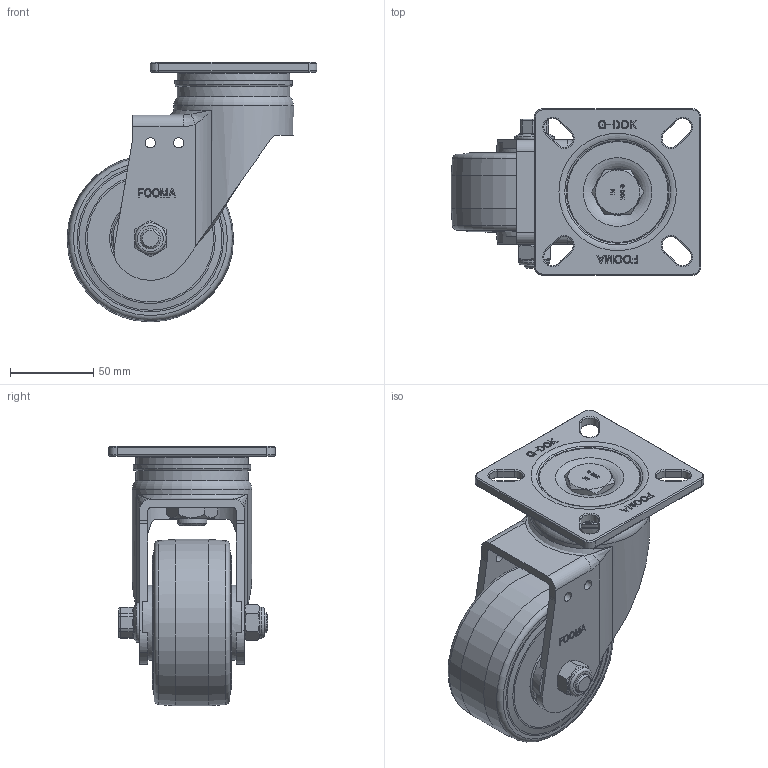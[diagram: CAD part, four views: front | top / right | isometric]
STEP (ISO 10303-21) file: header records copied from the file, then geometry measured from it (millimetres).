
FILE_DESCRIPTION(/* description */ (''),/* implementation_level */ '2;1');
FILE_NAME(/* name */ '\\192.168.10.38\지덕공유\1.기술연구소\1.도면\제품도면\1.양산품\10.PH-SERIES-OK\작성중\PH,PHS,GH-100-BSF _ 브레이크 부분 변경(130브라켓)관련 도면 모음(2D, 3D)\영업부전달_20230630\PHS-100-ASF-MCD-R01_Shrinkwrap_1.stp',/* time_stamp */ '2023-06-30T17:39:24+09:00',/* author */ ('admin'),/* organization */ (''),/* preprocessor_version */ 'ST-DEVELOPER v18.1',/* originating_system */ 'Autodesk Inventor 2021',/* authorisation */ '');
FILE_SCHEMA (('AUTOMOTIVE_DESIGN { 1 0 10303 214 3 1 1 }'));
Length unit declared in the file: millimetre
Products named in the file (1): PHS-100-ASF-MCD-R01_Shrinkwrap_1
Bounding box: 150 x 100 x 156 mm (x, y, z)
Volume: 611226.9 mm3; surface area: 89411.6 mm2
Topology: 1 solids, 7 shells, 708 faces, 1832 edges, 1188 vertices
Faces by surface type: plane 325, bspline 212, cylinder 77, torus 57, cone 37
Full cylindrical faces by diameter (mm): 6.1 x4, 12 x2, 14.5 x1, 15 x1, 15.2 x2, 18 x2, 18.3 x1, 18.5 x1, 45 x2, 47 x4, 54.004 x1, 67.667 x3, 71.999 x1, 100 x1
Entity records: 23939 total; most frequent: CARTESIAN_POINT 7215, ORIENTED_EDGE 3660, DIRECTION 2634, EDGE_CURVE 1830, VERTEX_POINT 1188, LINE 1002, VECTOR 1002, AXIS2_PLACEMENT_3D 816
